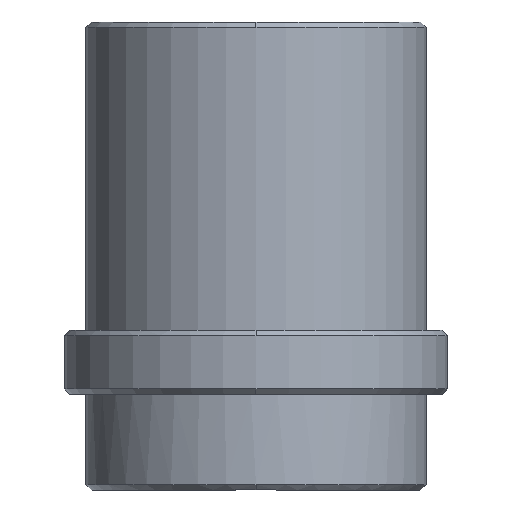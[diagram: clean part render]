
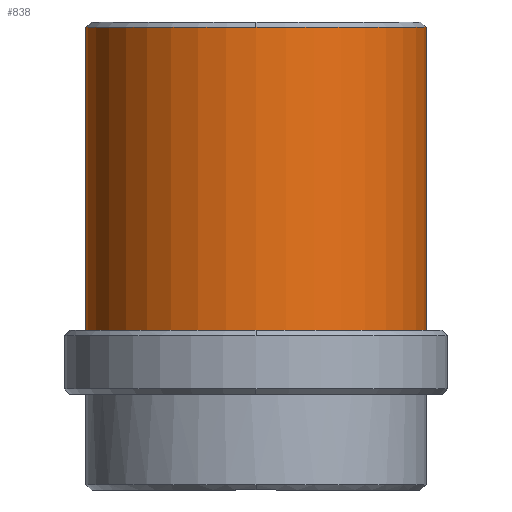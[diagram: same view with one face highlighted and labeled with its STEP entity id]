
A CAD part, front view. The second image highlights one B-rep face of the part: STEP entity #838.
In plain terms, the highlighted cylindrical face has radius 16 mm (diameter 32 mm), a partial arc.
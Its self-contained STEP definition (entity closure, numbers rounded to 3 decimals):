
#591=CARTESIAN_POINT('Vertex',(0.,-16.,34.5)) ;
#607=CARTESIAN_POINT('Vertex',(-16.,0.,34.5)) ;
#610=CARTESIAN_POINT('Axis2P3D Location',(0.,0.,34.5)) ;
#627=CARTESIAN_POINT('Axis2P3D Location',(0.,0.,34.5)) ;
#631=CARTESIAN_POINT('Vertex',(16.,0.,34.5)) ;
#807=CARTESIAN_POINT('Axis2P3D Location',(0.,0.,-11.2)) ;
#812=CARTESIAN_POINT('Line Origine',(-16.,0.,-11.2)) ;
#816=CARTESIAN_POINT('Vertex',(-16.,0.,6.)) ;
#819=CARTESIAN_POINT('Axis2P3D Location',(0.,0.,6.)) ;
#823=CARTESIAN_POINT('Vertex',(16.,0.,6.)) ;
#826=CARTESIAN_POINT('Line Origine',(16.,0.,-11.2)) ;
#611=DIRECTION('Axis2P3D Direction',(0.,0.,-1.)) ;
#628=DIRECTION('Axis2P3D Direction',(0.,0.,-1.)) ;
#808=DIRECTION('Axis2P3D Direction',(0.,0.,1.)) ;
#809=DIRECTION('Axis2P3D XDirection',(-1.,0.,0.)) ;
#813=DIRECTION('Vector Direction',(0.,0.,1.)) ;
#820=DIRECTION('Axis2P3D Direction',(0.,0.,1.)) ;
#827=DIRECTION('Vector Direction',(0.,0.,1.)) ;
#612=AXIS2_PLACEMENT_3D('Circle Axis2P3D',#610,#611,$) ;
#629=AXIS2_PLACEMENT_3D('Circle Axis2P3D',#627,#628,$) ;
#810=AXIS2_PLACEMENT_3D('Cylinder Axis2P3D',#807,#808,#809) ;
#821=AXIS2_PLACEMENT_3D('Circle Axis2P3D',#819,#820,$) ;
#832=ORIENTED_EDGE('',*,*,#818,.T.) ;
#833=ORIENTED_EDGE('',*,*,#825,.F.) ;
#834=ORIENTED_EDGE('',*,*,#830,.F.) ;
#835=ORIENTED_EDGE('',*,*,#633,.T.) ;
#836=ORIENTED_EDGE('',*,*,#614,.T.) ;
#814=VECTOR('Line Direction',#813,1.) ;
#828=VECTOR('Line Direction',#827,1.) ;
#838=ADVANCED_FACE('MANIFOLD_SOLID_BREP #2014',(#837),#811,.T.) ;
#613=CIRCLE('generated circle',#612,16.) ;
#630=CIRCLE('generated circle',#629,16.) ;
#822=CIRCLE('generated circle',#821,16.) ;
#811=CYLINDRICAL_SURFACE('generated cylinder',#810,16.) ;
#614=EDGE_CURVE('',#592,#608,#613,.T.) ;
#633=EDGE_CURVE('',#632,#592,#630,.T.) ;
#818=EDGE_CURVE('',#608,#817,#815,.F.) ;
#825=EDGE_CURVE('',#824,#817,#822,.F.) ;
#830=EDGE_CURVE('',#632,#824,#829,.F.) ;
#831=EDGE_LOOP('',(#832,#833,#834,#835,#836)) ;
#837=FACE_OUTER_BOUND('',#831,.T.) ;
#815=LINE('Line',#812,#814) ;
#829=LINE('Line',#826,#828) ;
#592=VERTEX_POINT('',#591) ;
#608=VERTEX_POINT('',#607) ;
#632=VERTEX_POINT('',#631) ;
#817=VERTEX_POINT('',#816) ;
#824=VERTEX_POINT('',#823) ;
